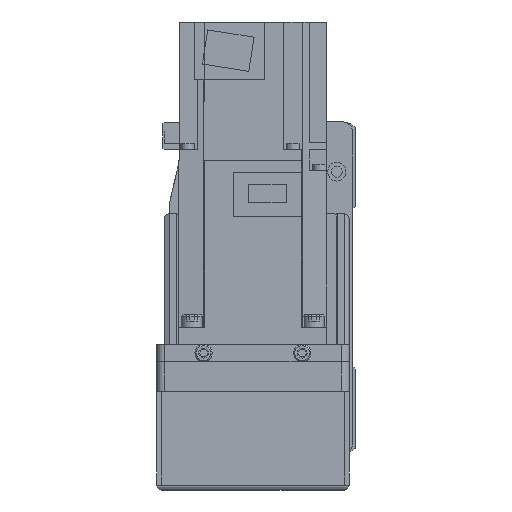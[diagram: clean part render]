
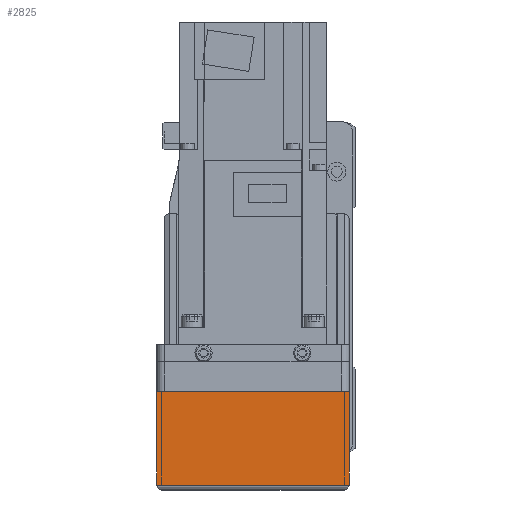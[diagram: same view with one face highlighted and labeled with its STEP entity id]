
A CAD part, left-side view. The second image highlights one B-rep face of the part: STEP entity #2825.
In plain terms, the highlighted planar face has unit normal (-1, 0, 0).
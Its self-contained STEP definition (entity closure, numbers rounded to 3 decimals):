
#2825 = ADVANCED_FACE( '', ( #6178 ), #6179, .F. );
#6178 = FACE_OUTER_BOUND( '', #9919, .T. );
#6179 = PLANE( '', #9920 );
#9919 = EDGE_LOOP( '', ( #17761, #17762, #17763, #17764 ) );
#9920 = AXIS2_PLACEMENT_3D( '', #17765, #17766, #17767 );
#17761 = ORIENTED_EDGE( '', *, *, #22798, .F. );
#17762 = ORIENTED_EDGE( '', *, *, #21154, .F. );
#17763 = ORIENTED_EDGE( '', *, *, #23833, .T. );
#17764 = ORIENTED_EDGE( '', *, *, #22519, .F. );
#17765 = CARTESIAN_POINT( '', ( -158., 36., 7. ) );
#17766 = DIRECTION( '', ( 1., 0., 0. ) );
#17767 = DIRECTION( '', ( 0., 0., -1. ) );
#21154 = EDGE_CURVE( '', #25225, #25227, #25228, .T. );
#22519 = EDGE_CURVE( '', #24925, #27488, #27489, .T. );
#22798 = EDGE_CURVE( '', #25227, #24925, #27895, .T. );
#23833 = EDGE_CURVE( '', #25225, #27488, #29325, .T. );
#24925 = VERTEX_POINT( '', #30685 );
#25225 = VERTEX_POINT( '', #31115 );
#25227 = VERTEX_POINT( '', #31118 );
#25228 = LINE( '', #31119, #31120 );
#27488 = VERTEX_POINT( '', #34864 );
#27489 = LINE( '', #34865, #34866 );
#27895 = LINE( '', #35499, #35500 );
#29325 = LINE( '', #37781, #37782 );
#30685 = CARTESIAN_POINT( '', ( -158., -39., -12.1 ) );
#31115 = CARTESIAN_POINT( '', ( -158., 39., -50. ) );
#31118 = CARTESIAN_POINT( '', ( -158., 39., -12.1 ) );
#31119 = CARTESIAN_POINT( '', ( -158., 39., -50. ) );
#31120 = VECTOR( '', #39502, 1000. );
#34864 = CARTESIAN_POINT( '', ( -158., -39., -50. ) );
#34865 = CARTESIAN_POINT( '', ( -158., -39., -12.1 ) );
#34866 = VECTOR( '', #41203, 1000. );
#35499 = CARTESIAN_POINT( '', ( -158., 50., -12.1 ) );
#35500 = VECTOR( '', #41515, 1000. );
#37781 = CARTESIAN_POINT( '', ( -158., 40., -50. ) );
#37782 = VECTOR( '', #42714, 1000. );
#39502 = DIRECTION( '', ( 0., 0., 1. ) );
#41203 = DIRECTION( '', ( 0., 0., -1. ) );
#41515 = DIRECTION( '', ( 0., -1., 0. ) );
#42714 = DIRECTION( '', ( 0., -1., 0. ) );
